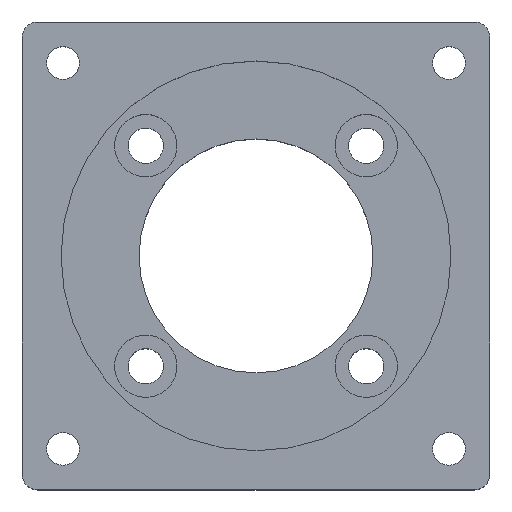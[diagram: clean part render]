
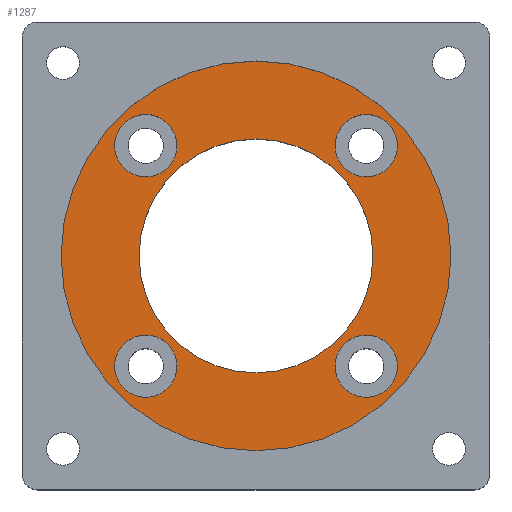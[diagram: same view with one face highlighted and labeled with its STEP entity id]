
A CAD part, top view. The second image highlights one B-rep face of the part: STEP entity #1287.
In plain terms, the highlighted planar face has unit normal (0, 0, 1).
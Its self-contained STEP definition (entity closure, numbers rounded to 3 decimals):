
#11 = CIRCLE ( 'NONE', #113, 4. ) ;
#21 = CARTESIAN_POINT ( 'NONE',  ( 10.142, -14.142, 13. ) ) ;
#25 = DIRECTION ( 'NONE',  ( 0., 0., 1. ) ) ;
#33 = ORIENTED_EDGE ( 'NONE', *, *, #866, .T. ) ;
#64 = DIRECTION ( 'NONE',  ( 0., 0., 1. ) ) ;
#71 = VERTEX_POINT ( 'NONE', #756 ) ;
#89 = CARTESIAN_POINT ( 'NONE',  ( -18.142, -14.142, 13. ) ) ;
#93 = EDGE_LOOP ( 'NONE', ( #355, #205 ) ) ;
#95 = CARTESIAN_POINT ( 'NONE',  ( 14.142, 14.142, 13. ) ) ;
#113 = AXIS2_PLACEMENT_3D ( 'NONE', #1387, #1275, #1515 ) ;
#117 = CIRCLE ( 'NONE', #225, 4. ) ;
#140 = AXIS2_PLACEMENT_3D ( 'NONE', #1001, #64, #782 ) ;
#160 = CARTESIAN_POINT ( 'NONE',  ( 25., 0., 13. ) ) ;
#162 = CIRCLE ( 'NONE', #858, 25. ) ;
#183 = DIRECTION ( 'NONE',  ( 1., 0., 0. ) ) ;
#185 = AXIS2_PLACEMENT_3D ( 'NONE', #1349, #1466, #183 ) ;
#188 = VERTEX_POINT ( 'NONE', #89 ) ;
#196 = CARTESIAN_POINT ( 'NONE',  ( 10.142, 14.142, 13. ) ) ;
#205 = ORIENTED_EDGE ( 'NONE', *, *, #1364, .F. ) ;
#220 = CIRCLE ( 'NONE', #955, 4. ) ;
#225 = AXIS2_PLACEMENT_3D ( 'NONE', #1080, #1320, #743 ) ;
#244 = VERTEX_POINT ( 'NONE', #473 ) ;
#247 = CARTESIAN_POINT ( 'NONE',  ( 0., 0., 13. ) ) ;
#269 = EDGE_CURVE ( 'NONE', #71, #396, #11, .T. ) ;
#310 = ORIENTED_EDGE ( 'NONE', *, *, #931, .F. ) ;
#312 = AXIS2_PLACEMENT_3D ( 'NONE', #1053, #831, #1045 ) ;
#324 = EDGE_CURVE ( 'NONE', #1170, #683, #220, .T. ) ;
#331 = CIRCLE ( 'NONE', #1398, 4. ) ;
#343 = EDGE_LOOP ( 'NONE', ( #898, #310 ) ) ;
#344 = EDGE_CURVE ( 'NONE', #972, #1379, #775, .T. ) ;
#348 = PLANE ( 'NONE',  #312 ) ;
#355 = ORIENTED_EDGE ( 'NONE', *, *, #494, .F. ) ;
#382 = CARTESIAN_POINT ( 'NONE',  ( -10.142, -14.142, 13. ) ) ;
#384 = DIRECTION ( 'NONE',  ( 1., 0., 0. ) ) ;
#396 = VERTEX_POINT ( 'NONE', #21 ) ;
#439 = CIRCLE ( 'NONE', #185, 4. ) ;
#473 = CARTESIAN_POINT ( 'NONE',  ( -10.142, 14.142, 13. ) ) ;
#478 = DIRECTION ( 'NONE',  ( 1., 0., 0. ) ) ;
#494 = EDGE_CURVE ( 'NONE', #244, #1411, #665, .T. ) ;
#497 = DIRECTION ( 'NONE',  ( 0., 0., 1. ) ) ;
#528 = CARTESIAN_POINT ( 'NONE',  ( 0., 0., 13. ) ) ;
#532 = FACE_BOUND ( 'NONE', #1340, .T. ) ;
#533 = CIRCLE ( 'NONE', #629, 4. ) ;
#552 = CIRCLE ( 'NONE', #1454, 4. ) ;
#559 = EDGE_CURVE ( 'NONE', #1406, #188, #439, .T. ) ;
#599 = DIRECTION ( 'NONE',  ( 1., 0., 0. ) ) ;
#629 = AXIS2_PLACEMENT_3D ( 'NONE', #1419, #25, #384 ) ;
#632 = ORIENTED_EDGE ( 'NONE', *, *, #269, .F. ) ;
#635 = DIRECTION ( 'NONE',  ( 1., 0., 0. ) ) ;
#665 = CIRCLE ( 'NONE', #140, 4. ) ;
#672 = DIRECTION ( 'NONE',  ( 1., 0., 0. ) ) ;
#683 = VERTEX_POINT ( 'NONE', #196 ) ;
#691 = DIRECTION ( 'NONE',  ( 0., 0., 1. ) ) ;
#692 = FACE_BOUND ( 'NONE', #1076, .T. ) ;
#714 = CARTESIAN_POINT ( 'NONE',  ( 0., 0., 13. ) ) ;
#720 = CARTESIAN_POINT ( 'NONE',  ( -14.142, 14.142, 13. ) ) ;
#722 = CARTESIAN_POINT ( 'NONE',  ( -25., 0., 13. ) ) ;
#736 = DIRECTION ( 'NONE',  ( 0., 0., 1. ) ) ;
#743 = DIRECTION ( 'NONE',  ( 1., 0., 0. ) ) ;
#756 = CARTESIAN_POINT ( 'NONE',  ( 18.142, -14.142, 13. ) ) ;
#768 = CIRCLE ( 'NONE', #899, 15. ) ;
#769 = FACE_BOUND ( 'NONE', #93, .T. ) ;
#775 = CIRCLE ( 'NONE', #1030, 25. ) ;
#777 = ORIENTED_EDGE ( 'NONE', *, *, #324, .F. ) ;
#779 = ORIENTED_EDGE ( 'NONE', *, *, #344, .T. ) ;
#782 = DIRECTION ( 'NONE',  ( 1., 0., 0. ) ) ;
#800 = EDGE_CURVE ( 'NONE', #396, #71, #533, .T. ) ;
#810 = CARTESIAN_POINT ( 'NONE',  ( 15., 0., 13. ) ) ;
#827 = ORIENTED_EDGE ( 'NONE', *, *, #1197, .F. ) ;
#830 = ORIENTED_EDGE ( 'NONE', *, *, #922, .F. ) ;
#831 = DIRECTION ( 'NONE',  ( 0., 0., 1. ) ) ;
#853 = DIRECTION ( 'NONE',  ( 0., 0., 1. ) ) ;
#858 = AXIS2_PLACEMENT_3D ( 'NONE', #714, #1430, #1056 ) ;
#866 = EDGE_CURVE ( 'NONE', #1379, #972, #162, .T. ) ;
#877 = CARTESIAN_POINT ( 'NONE',  ( -15., 0., 13. ) ) ;
#898 = ORIENTED_EDGE ( 'NONE', *, *, #559, .F. ) ;
#899 = AXIS2_PLACEMENT_3D ( 'NONE', #528, #1343, #635 ) ;
#922 = EDGE_CURVE ( 'NONE', #1027, #1302, #768, .T. ) ;
#931 = EDGE_CURVE ( 'NONE', #188, #1406, #117, .T. ) ;
#955 = AXIS2_PLACEMENT_3D ( 'NONE', #1181, #1292, #599 ) ;
#962 = DIRECTION ( 'NONE',  ( 1., 0., 0. ) ) ;
#965 = CIRCLE ( 'NONE', #1237, 15. ) ;
#971 = CARTESIAN_POINT ( 'NONE',  ( 0., 0., 13. ) ) ;
#972 = VERTEX_POINT ( 'NONE', #160 ) ;
#1001 = CARTESIAN_POINT ( 'NONE',  ( -14.142, 14.142, 13. ) ) ;
#1027 = VERTEX_POINT ( 'NONE', #877 ) ;
#1030 = AXIS2_PLACEMENT_3D ( 'NONE', #247, #497, #478 ) ;
#1045 = DIRECTION ( 'NONE',  ( 1., 0., 0. ) ) ;
#1053 = CARTESIAN_POINT ( 'NONE',  ( 0., 0., 13. ) ) ;
#1056 = DIRECTION ( 'NONE',  ( 1., 0., 0. ) ) ;
#1069 = DIRECTION ( 'NONE',  ( 1., 0., 0. ) ) ;
#1076 = EDGE_LOOP ( 'NONE', ( #632, #1306 ) ) ;
#1080 = CARTESIAN_POINT ( 'NONE',  ( -14.142, -14.142, 13. ) ) ;
#1170 = VERTEX_POINT ( 'NONE', #1270 ) ;
#1181 = CARTESIAN_POINT ( 'NONE',  ( 14.142, 14.142, 13. ) ) ;
#1197 = EDGE_CURVE ( 'NONE', #683, #1170, #552, .T. ) ;
#1220 = FACE_OUTER_BOUND ( 'NONE', #1357, .T. ) ;
#1237 = AXIS2_PLACEMENT_3D ( 'NONE', #971, #853, #1069 ) ;
#1270 = CARTESIAN_POINT ( 'NONE',  ( 18.142, 14.142, 13. ) ) ;
#1275 = DIRECTION ( 'NONE',  ( 0., 0., 1. ) ) ;
#1287 = ADVANCED_FACE ( 'NONE', ( #769, #692, #1331, #532, #1369, #1220 ), #348, .T. ) ;
#1292 = DIRECTION ( 'NONE',  ( 0., 0., 1. ) ) ;
#1302 = VERTEX_POINT ( 'NONE', #810 ) ;
#1306 = ORIENTED_EDGE ( 'NONE', *, *, #800, .F. ) ;
#1307 = EDGE_LOOP ( 'NONE', ( #830, #1471 ) ) ;
#1320 = DIRECTION ( 'NONE',  ( 0., 0., 1. ) ) ;
#1331 = FACE_BOUND ( 'NONE', #343, .T. ) ;
#1340 = EDGE_LOOP ( 'NONE', ( #777, #827 ) ) ;
#1343 = DIRECTION ( 'NONE',  ( 0., 0., 1. ) ) ;
#1348 = EDGE_CURVE ( 'NONE', #1302, #1027, #965, .T. ) ;
#1349 = CARTESIAN_POINT ( 'NONE',  ( -14.142, -14.142, 13. ) ) ;
#1357 = EDGE_LOOP ( 'NONE', ( #779, #33 ) ) ;
#1364 = EDGE_CURVE ( 'NONE', #1411, #244, #331, .T. ) ;
#1369 = FACE_BOUND ( 'NONE', #1307, .T. ) ;
#1379 = VERTEX_POINT ( 'NONE', #722 ) ;
#1387 = CARTESIAN_POINT ( 'NONE',  ( 14.142, -14.142, 13. ) ) ;
#1398 = AXIS2_PLACEMENT_3D ( 'NONE', #720, #736, #962 ) ;
#1406 = VERTEX_POINT ( 'NONE', #382 ) ;
#1411 = VERTEX_POINT ( 'NONE', #1438 ) ;
#1419 = CARTESIAN_POINT ( 'NONE',  ( 14.142, -14.142, 13. ) ) ;
#1430 = DIRECTION ( 'NONE',  ( 0., 0., 1. ) ) ;
#1438 = CARTESIAN_POINT ( 'NONE',  ( -18.142, 14.142, 13. ) ) ;
#1454 = AXIS2_PLACEMENT_3D ( 'NONE', #95, #691, #672 ) ;
#1466 = DIRECTION ( 'NONE',  ( 0., 0., 1. ) ) ;
#1471 = ORIENTED_EDGE ( 'NONE', *, *, #1348, .F. ) ;
#1515 = DIRECTION ( 'NONE',  ( 1., 0., 0. ) ) ;
